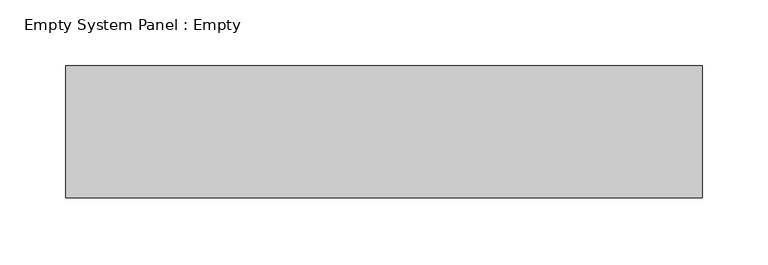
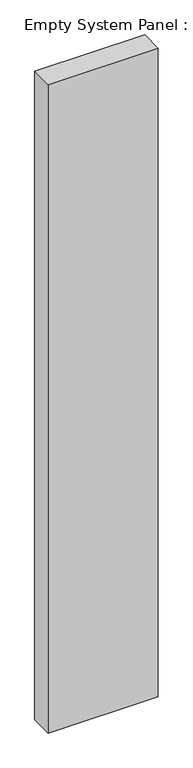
"""IFC4 building model written with IfcOpenShell, lengths in millimetres: plate geometry, Empty System Panel : Empty."""

from ifc_helpers import new_model, si_unit, origin, origin_with_axes, place, context, project, spatial, polyline, outline, extrude, source, transform, mapped, element, save


def empty_system_panel_empty_5782cc23(model_context):
    return source(origin(), model_context, "Body", "SweptSolid", [
        extrude(outline(polyline([(241.0, -50.0), (-241.0, -50.0), (-241.0, 50.0), (241.0, 50.0), (241.0, -50.0)])), origin_with_axes(), (0.0, 0.0, 1.0), 3000.0),
    ])


if __name__ == "__main__":
    model = new_model("IFC4")
    model_context = context("Model", 3, world=origin())
    ifc_project = project(units=[si_unit("LENGTHUNIT", "METRE", prefix="MILLI")], contexts=[model_context])
    site = spatial("IfcSite", under=ifc_project)
    building = spatial("IfcBuilding", under=site)
    placement = place(None, origin())
    empty_system_panel_empty_shape = empty_system_panel_empty_5782cc23(model_context)
    element("IfcPlate", 1, ObjectType="Empty System Panel : Empty", at=placement, inside=building, context=model_context, shape_type="MappedRepresentation", body=[
        mapped(empty_system_panel_empty_shape, transform((0.0, 0.0, 0.0), x_axis=(1.0, 0.0, 0.0), y_axis=(0.0, 1.0, 0.0), z_axis=(0.0, 0.0, 1.0))),
    ])
    save(model, "model.ifc")
